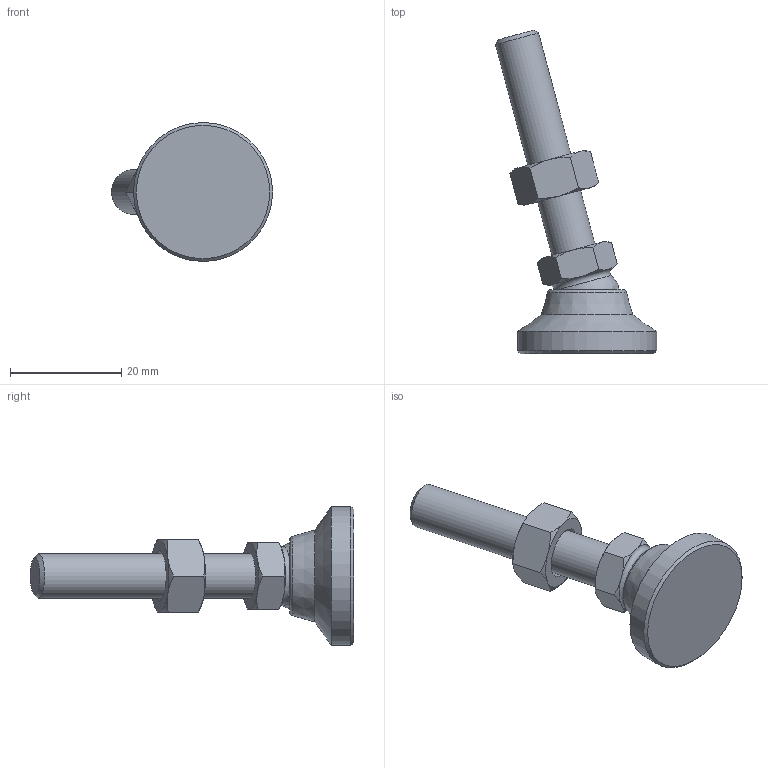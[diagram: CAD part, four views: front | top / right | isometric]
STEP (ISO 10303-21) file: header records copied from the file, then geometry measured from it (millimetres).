
FILE_DESCRIPTION( ( 'STEP AP214' ), ' ' );
FILE_NAME( 'O:/ganter_2015/teil_2/2_5/gn343_2/gn343_2_os/Levelling foot with threaded stud GN 343.2-25-M8-40-OS-(15).stp', '2015-10-26T09:06:28', ( '' ), ( '' ), ' ', 'PARTsolutions', ' ' );
FILE_SCHEMA( ( 'AUTOMOTIVE_DESIGN { 1 0 10303 214 1 1 1 1 }' ) );
Length unit declared in the file: millimetre
Products named in the file (4): Levelling foot with threaded stud GN 343.2-25-M8-40-OS-(15); _Levelling foot with threaded stud GN 343.2-25-M8-40-OS-(15)_foot; _Levelling foot with threaded stud GN 343.2-25-M8-40-OS-(15)_screw; _Stainless Steel-Levelling feet GN 343.2-25-M8-40-OS-(15)_nut
Assembly tree (3 placements, depth 2):
  Levelling foot with threaded stud GN 343.2-25-M8-40-OS-(15)
    _Levelling foot with threaded stud GN 343.2-25-M8-40-OS-(15)_foot
    _Levelling foot with threaded stud GN 343.2-25-M8-40-OS-(15)_screw
    _Stainless Steel-Levelling feet GN 343.2-25-M8-40-OS-(15)_nut
Bounding box: 28.97 x 58.17 x 25 mm (x, y, z)
Volume: 7405.1 mm3; surface area: 4094.7 mm2
Topology: 3 solids, 3 shells, 55 faces, 122 edges, 73 vertices
Faces by surface type: cone 30, plane 18, cylinder 3, torus 2, sphere 1, bspline 1
Full cylindrical faces by diameter (mm): 6.647 x1, 8 x1, 25 x1
Entity records: 2119 total; most frequent: CARTESIAN_POINT 550, ORIENTED_EDGE 210, DIRECTION 206, EDGE_CURVE 105, AXIS2_PLACEMENT_3D 97, VERTEX_POINT 71, EDGE_LOOP 70, FACE_OUTER_BOUND 60
